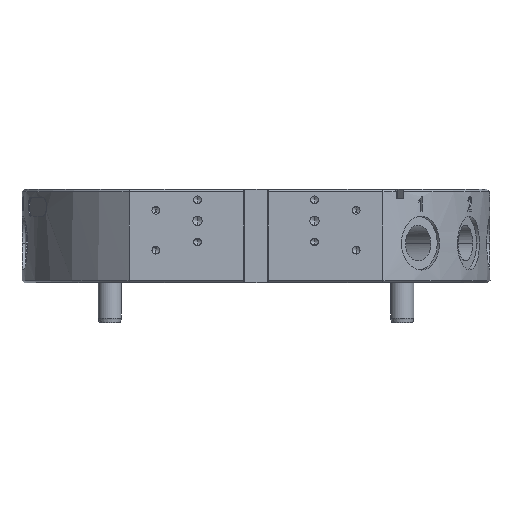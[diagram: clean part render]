
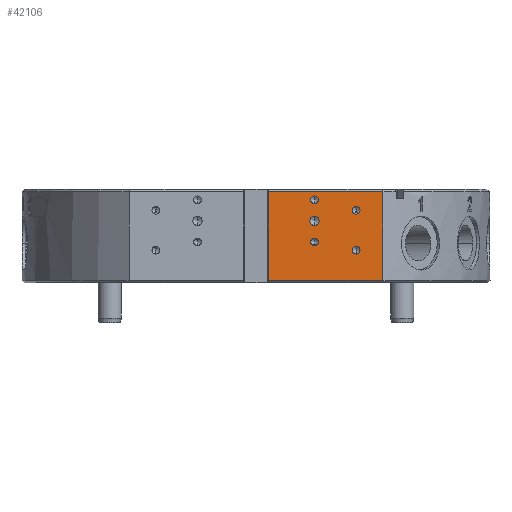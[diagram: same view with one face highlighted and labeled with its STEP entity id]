
A CAD part, front view. The second image highlights one B-rep face of the part: STEP entity #42106.
In plain terms, the highlighted planar face has unit normal (0, -1, 0).
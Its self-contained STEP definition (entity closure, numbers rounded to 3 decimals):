
#549 = EDGE_CURVE ( 'NONE', #41204, #10425, #8631, .T. ) ;
#702 = CIRCLE ( 'NONE', #36312, 1.65 ) ;
#1251 = DIRECTION ( 'NONE',  ( 0., 0., -1. ) ) ;
#1293 = DIRECTION ( 'NONE',  ( 0., 1., 0. ) ) ;
#1342 = CARTESIAN_POINT ( 'NONE',  ( 25., -84., -13.5 ) ) ;
#1823 = ORIENTED_EDGE ( 'NONE', *, *, #40962, .T. ) ;
#1899 = EDGE_LOOP ( 'NONE', ( #26753, #18595, #1823, #4703 ) ) ;
#2087 = ORIENTED_EDGE ( 'NONE', *, *, #6465, .T. ) ;
#2363 = CARTESIAN_POINT ( 'NONE',  ( 42.8, -84., -24.35 ) ) ;
#2811 = AXIS2_PLACEMENT_3D ( 'NONE', #5513, #29294, #8991 ) ;
#2910 = VERTEX_POINT ( 'NONE', #43609 ) ;
#2959 = DIRECTION ( 'NONE',  ( 0., 0., -1. ) ) ;
#3748 = CARTESIAN_POINT ( 'NONE',  ( 25., -84., -24.15 ) ) ;
#4097 = EDGE_CURVE ( 'NONE', #7041, #28722, #15977, .T. ) ;
#4253 = CARTESIAN_POINT ( 'NONE',  ( 54.255, -84., -39. ) ) ;
#4504 = CARTESIAN_POINT ( 'NONE',  ( 54.255, -84., -1. ) ) ;
#4703 = ORIENTED_EDGE ( 'NONE', *, *, #21883, .T. ) ;
#4788 = EDGE_CURVE ( 'NONE', #8318, #23999, #25933, .T. ) ;
#4927 = ORIENTED_EDGE ( 'NONE', *, *, #18781, .T. ) ;
#5100 = DIRECTION ( 'NONE',  ( 0., 0., -1. ) ) ;
#5513 = CARTESIAN_POINT ( 'NONE',  ( 42.8, -84., -26. ) ) ;
#5860 = FACE_BOUND ( 'NONE', #35872, .T. ) ;
#6292 = DIRECTION ( 'NONE',  ( 0., 1., 0. ) ) ;
#6465 = EDGE_CURVE ( 'NONE', #17512, #14775, #12632, .T. ) ;
#6636 = EDGE_CURVE ( 'NONE', #28197, #33319, #36256, .T. ) ;
#7041 = VERTEX_POINT ( 'NONE', #15886 ) ;
#7344 = DIRECTION ( 'NONE',  ( 0., 1., 0. ) ) ;
#8054 = EDGE_CURVE ( 'NONE', #9084, #8318, #25821, .T. ) ;
#8318 = VERTEX_POINT ( 'NONE', #4253 ) ;
#8493 = CARTESIAN_POINT ( 'NONE',  ( -54.254, -84., -1. ) ) ;
#8631 = CIRCLE ( 'NONE', #25111, 2. ) ;
#8991 = DIRECTION ( 'NONE',  ( 0., 0., -1. ) ) ;
#9029 = CIRCLE ( 'NONE', #37360, 1.65 ) ;
#9084 = VERTEX_POINT ( 'NONE', #19367 ) ;
#9309 = ORIENTED_EDGE ( 'NONE', *, *, #30056, .T. ) ;
#9907 = AXIS2_PLACEMENT_3D ( 'NONE', #35639, #15609, #38967 ) ;
#10425 = VERTEX_POINT ( 'NONE', #26474 ) ;
#11125 = EDGE_LOOP ( 'NONE', ( #24173, #2087 ) ) ;
#11725 = EDGE_LOOP ( 'NONE', ( #12875, #9309 ) ) ;
#11731 = ORIENTED_EDGE ( 'NONE', *, *, #4097, .T. ) ;
#12438 = CARTESIAN_POINT ( 'NONE',  ( 0., -84., -39. ) ) ;
#12454 = DIRECTION ( 'NONE',  ( 1., 0., 0. ) ) ;
#12576 = DIRECTION ( 'NONE',  ( 1., 0., 0. ) ) ;
#12632 = CIRCLE ( 'NONE', #20441, 1.65 ) ;
#12875 = ORIENTED_EDGE ( 'NONE', *, *, #25737, .T. ) ;
#13227 = CARTESIAN_POINT ( 'NONE',  ( 25., -84., -4.5 ) ) ;
#13376 = DIRECTION ( 'NONE',  ( 0., 1., 0. ) ) ;
#13542 = DIRECTION ( 'NONE',  ( 0., 0., -1. ) ) ;
#14453 = ORIENTED_EDGE ( 'NONE', *, *, #6636, .T. ) ;
#14775 = VERTEX_POINT ( 'NONE', #3748 ) ;
#14933 = EDGE_LOOP ( 'NONE', ( #14453, #4927 ) ) ;
#15079 = FACE_BOUND ( 'NONE', #22794, .T. ) ;
#15201 = VERTEX_POINT ( 'NONE', #30349 ) ;
#15609 = DIRECTION ( 'NONE',  ( 0., 1., 0. ) ) ;
#15852 = CARTESIAN_POINT ( 'NONE',  ( 25., -84., -4.5 ) ) ;
#15886 = CARTESIAN_POINT ( 'NONE',  ( 25., -84., -2.85 ) ) ;
#15977 = CIRCLE ( 'NONE', #22085, 1.65 ) ;
#16830 = ORIENTED_EDGE ( 'NONE', *, *, #549, .T. ) ;
#17512 = VERTEX_POINT ( 'NONE', #32413 ) ;
#17553 = EDGE_CURVE ( 'NONE', #28722, #7041, #702, .T. ) ;
#18523 = AXIS2_PLACEMENT_3D ( 'NONE', #27692, #7344, #31058 ) ;
#18595 = ORIENTED_EDGE ( 'NONE', *, *, #4788, .T. ) ;
#18617 = VERTEX_POINT ( 'NONE', #2363 ) ;
#18781 = EDGE_CURVE ( 'NONE', #33319, #28197, #43437, .T. ) ;
#18873 = CARTESIAN_POINT ( 'NONE',  ( 5.3, -84., 0. ) ) ;
#19208 = DIRECTION ( 'NONE',  ( 0., 0., -1. ) ) ;
#19367 = CARTESIAN_POINT ( 'NONE',  ( 5.3, -84., -39. ) ) ;
#20441 = AXIS2_PLACEMENT_3D ( 'NONE', #40505, #40417, #40368 ) ;
#21883 = EDGE_CURVE ( 'NONE', #15201, #9084, #26230, .T. ) ;
#22085 = AXIS2_PLACEMENT_3D ( 'NONE', #13227, #13376, #13542 ) ;
#22794 = EDGE_LOOP ( 'NONE', ( #16830, #26590 ) ) ;
#23444 = DIRECTION ( 'NONE',  ( 0., 1., 0. ) ) ;
#23999 = VERTEX_POINT ( 'NONE', #4504 ) ;
#24002 = FACE_BOUND ( 'NONE', #11725, .T. ) ;
#24173 = ORIENTED_EDGE ( 'NONE', *, *, #36321, .T. ) ;
#24869 = VECTOR ( 'NONE', #35329, 1000. ) ;
#25111 = AXIS2_PLACEMENT_3D ( 'NONE', #1342, #1293, #1251 ) ;
#25185 = VECTOR ( 'NONE', #32150, 1000. ) ;
#25737 = EDGE_CURVE ( 'NONE', #2910, #18617, #9029, .T. ) ;
#25821 = LINE ( 'NONE', #12438, #33641 ) ;
#25933 = LINE ( 'NONE', #35571, #24869 ) ;
#26230 = LINE ( 'NONE', #18873, #36136 ) ;
#26474 = CARTESIAN_POINT ( 'NONE',  ( 25., -84., -11.5 ) ) ;
#26590 = ORIENTED_EDGE ( 'NONE', *, *, #38928, .T. ) ;
#26668 = CARTESIAN_POINT ( 'NONE',  ( 42.8, -84., -26. ) ) ;
#26753 = ORIENTED_EDGE ( 'NONE', *, *, #8054, .T. ) ;
#27314 = CARTESIAN_POINT ( 'NONE',  ( 25., -84., -6.15 ) ) ;
#27692 = CARTESIAN_POINT ( 'NONE',  ( 25., -84., -13.5 ) ) ;
#27898 = CARTESIAN_POINT ( 'NONE',  ( 42.8, -84., -10.65 ) ) ;
#28197 = VERTEX_POINT ( 'NONE', #27898 ) ;
#28488 = CARTESIAN_POINT ( 'NONE',  ( 25., -84., -15.5 ) ) ;
#28722 = VERTEX_POINT ( 'NONE', #27314 ) ;
#29294 = DIRECTION ( 'NONE',  ( 0., 1., 0. ) ) ;
#30039 = DIRECTION ( 'NONE',  ( 0., 0., -1. ) ) ;
#30056 = EDGE_CURVE ( 'NONE', #18617, #2910, #35775, .T. ) ;
#30349 = CARTESIAN_POINT ( 'NONE',  ( 5.3, -84., -1. ) ) ;
#30672 = ORIENTED_EDGE ( 'NONE', *, *, #17553, .T. ) ;
#31058 = DIRECTION ( 'NONE',  ( 0., 0., -1. ) ) ;
#31852 = FACE_OUTER_BOUND ( 'NONE', #1899, .T. ) ;
#32150 = DIRECTION ( 'NONE',  ( -1., 0., 0. ) ) ;
#32413 = CARTESIAN_POINT ( 'NONE',  ( 25., -84., -20.85 ) ) ;
#32577 = DIRECTION ( 'NONE',  ( 0., -1., 0. ) ) ;
#33122 = CIRCLE ( 'NONE', #18523, 2. ) ;
#33319 = VERTEX_POINT ( 'NONE', #38649 ) ;
#33641 = VECTOR ( 'NONE', #12576, 1000. ) ;
#35329 = DIRECTION ( 'NONE',  ( 0., 0., 1. ) ) ;
#35571 = CARTESIAN_POINT ( 'NONE',  ( 54.255, -84., 0. ) ) ;
#35639 = CARTESIAN_POINT ( 'NONE',  ( 25., -84., -22.5 ) ) ;
#35775 = CIRCLE ( 'NONE', #2811, 1.65 ) ;
#35872 = EDGE_LOOP ( 'NONE', ( #30672, #11731 ) ) ;
#36061 = AXIS2_PLACEMENT_3D ( 'NONE', #43318, #23444, #2959 ) ;
#36136 = VECTOR ( 'NONE', #5100, 1000. ) ;
#36256 = CIRCLE ( 'NONE', #42717, 1.65 ) ;
#36312 = AXIS2_PLACEMENT_3D ( 'NONE', #15852, #39208, #19208 ) ;
#36321 = EDGE_CURVE ( 'NONE', #14775, #17512, #38414, .T. ) ;
#37360 = AXIS2_PLACEMENT_3D ( 'NONE', #26668, #6292, #30039 ) ;
#37803 = DIRECTION ( 'NONE',  ( 0., 0., -1. ) ) ;
#37844 = DIRECTION ( 'NONE',  ( 0., 1., 0. ) ) ;
#37851 = CARTESIAN_POINT ( 'NONE',  ( 42.8, -84., -9. ) ) ;
#38414 = CIRCLE ( 'NONE', #9907, 1.65 ) ;
#38649 = CARTESIAN_POINT ( 'NONE',  ( 42.8, -84., -7.35 ) ) ;
#38928 = EDGE_CURVE ( 'NONE', #10425, #41204, #33122, .T. ) ;
#38967 = DIRECTION ( 'NONE',  ( 0., 0., -1. ) ) ;
#39109 = CARTESIAN_POINT ( 'NONE',  ( -54.254, -84., 0. ) ) ;
#39208 = DIRECTION ( 'NONE',  ( 0., 1., 0. ) ) ;
#40368 = DIRECTION ( 'NONE',  ( 0., 0., -1. ) ) ;
#40417 = DIRECTION ( 'NONE',  ( 0., 1., 0. ) ) ;
#40505 = CARTESIAN_POINT ( 'NONE',  ( 25., -84., -22.5 ) ) ;
#40625 = FACE_BOUND ( 'NONE', #11125, .T. ) ;
#40962 = EDGE_CURVE ( 'NONE', #23999, #15201, #41757, .T. ) ;
#41204 = VERTEX_POINT ( 'NONE', #28488 ) ;
#41638 = FACE_BOUND ( 'NONE', #14933, .T. ) ;
#41757 = LINE ( 'NONE', #8493, #25185 ) ;
#42106 = ADVANCED_FACE ( 'NONE', ( #41638, #24002, #15079, #5860, #40625, #31852 ), #42377, .T. ) ;
#42377 = PLANE ( 'NONE',  #43122 ) ;
#42717 = AXIS2_PLACEMENT_3D ( 'NONE', #37851, #37844, #37803 ) ;
#43122 = AXIS2_PLACEMENT_3D ( 'NONE', #39109, #32577, #12454 ) ;
#43318 = CARTESIAN_POINT ( 'NONE',  ( 42.8, -84., -9. ) ) ;
#43437 = CIRCLE ( 'NONE', #36061, 1.65 ) ;
#43609 = CARTESIAN_POINT ( 'NONE',  ( 42.8, -84., -27.65 ) ) ;
